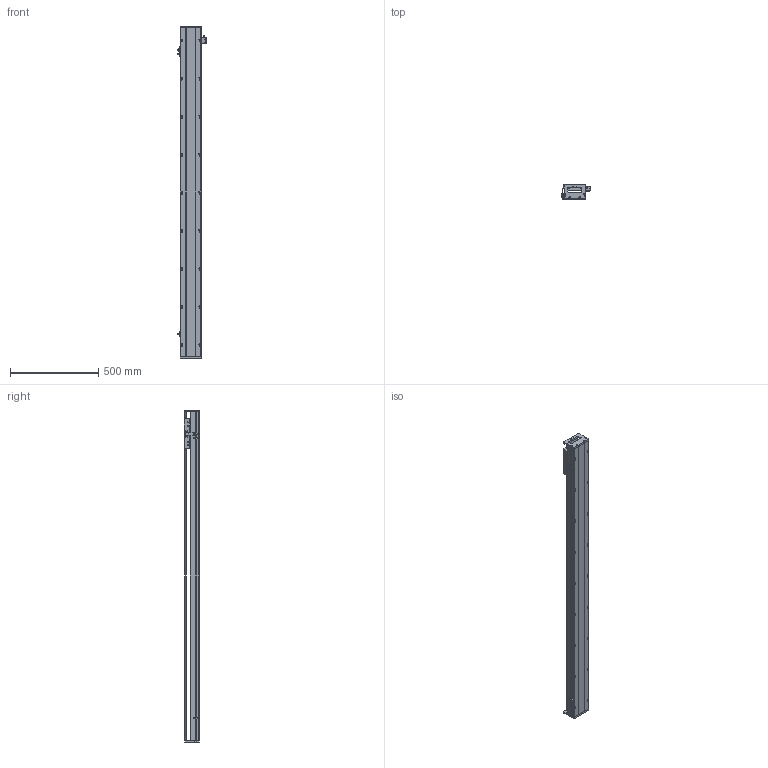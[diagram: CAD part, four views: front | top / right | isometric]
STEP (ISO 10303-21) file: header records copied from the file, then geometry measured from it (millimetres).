
FILE_DESCRIPTION (( 'STEP AP203' ), '1' );
FILE_NAME ('SKR12S-C1-S1614（简）.STEP', '2022-09-26T02:56:27', ( '' ), ( '' ), 'SwSTEP 2.0', 'SolidWorks 2018', '' );
FILE_SCHEMA (( 'CONFIG_CONTROL_DESIGN' ));
Length unit declared in the file: millimetre
Products named in the file (8): SKR12菁釱-C1-S1614(潠); SKR12S-C1-S1614（简）; SKR12耜啣; EE-SX672; 棠掑假蚾輸; SKR12滑台-170L（简）; 覜茼え; SIKO棠掑
Assembly tree (10 placements, depth 2):
  SKR12S-C1-S1614（简）
    SKR12菁釱-C1-S1614(潠)
    SKR12滑台-170L（简）
    SKR12耜啣  x2
    棠掑假蚾輸
    SIKO棠掑
    覜茼え
    EE-SX672  x3
Bounding box: 162.7 x 87.3 x 1884 mm (x, y, z)
Volume: 8161067.4 mm3; surface area: 1291644.4 mm2
Topology: 11 solids, 11 shells, 1064 faces, 2843 edges, 1795 vertices
Faces by surface type: cylinder 505, plane 413, cone 146
Entity records: 29627 total; most frequent: CARTESIAN_POINT 6235, DIRECTION 4829, ORIENTED_EDGE 4626, EDGE_CURVE 2313, AXIS2_PLACEMENT_3D 1797, VERTEX_POINT 1499, LINE 1235, VECTOR 1235
